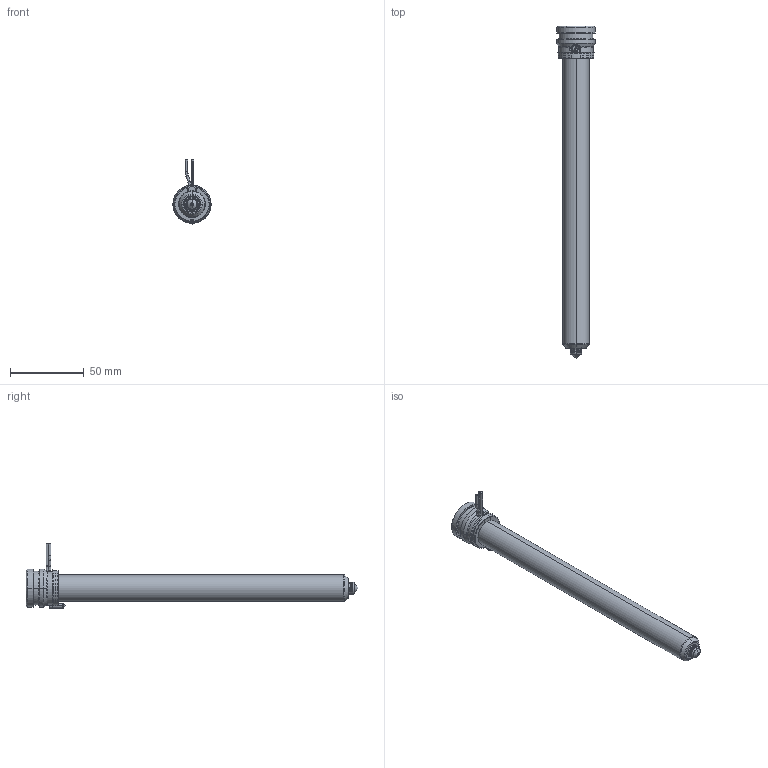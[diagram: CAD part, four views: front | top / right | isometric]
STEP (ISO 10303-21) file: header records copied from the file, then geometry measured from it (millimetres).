
FILE_DESCRIPTION((''),'2;1');
FILE_NAME('MPN-08-24-TX8-206-A','2026-02-05T11:55:42',('UPTIO'),('Thermoplay S.p.A.'),'CREO PARAMETRIC BY PTC INC, 2023494','CREO PARAMETRIC BY PTC INC, 2023494','');
FILE_SCHEMA(('CONFIG_CONTROL_DESIGN','SHAPE_APPEARANCE_LAYERS_GROUPS'));
Length unit declared in the file: millimetre
Products named in the file (1): MPN-08-24-TX8-206-A
Bounding box: 26 x 225.5 x 43.5 mm (x, y, z)
Volume: 41444.3 mm3; surface area: 54733.3 mm2
Topology: 2 solids, 3 shells, 548 faces, 1458 edges, 904 vertices
Faces by surface type: cylinder 180, plane 144, bspline 82, torus 64, cone 60, sphere 12, extrusion 6
Entity records: 29960 total; most frequent: CARTESIAN_POINT 13614, ORIENTED_EDGE 2896, DIRECTION 2574, EDGE_CURVE 1448, AXIS2_PLACEMENT_3D 1006, VERTEX_POINT 904, EDGE_LOOP 576, VECTOR 562
